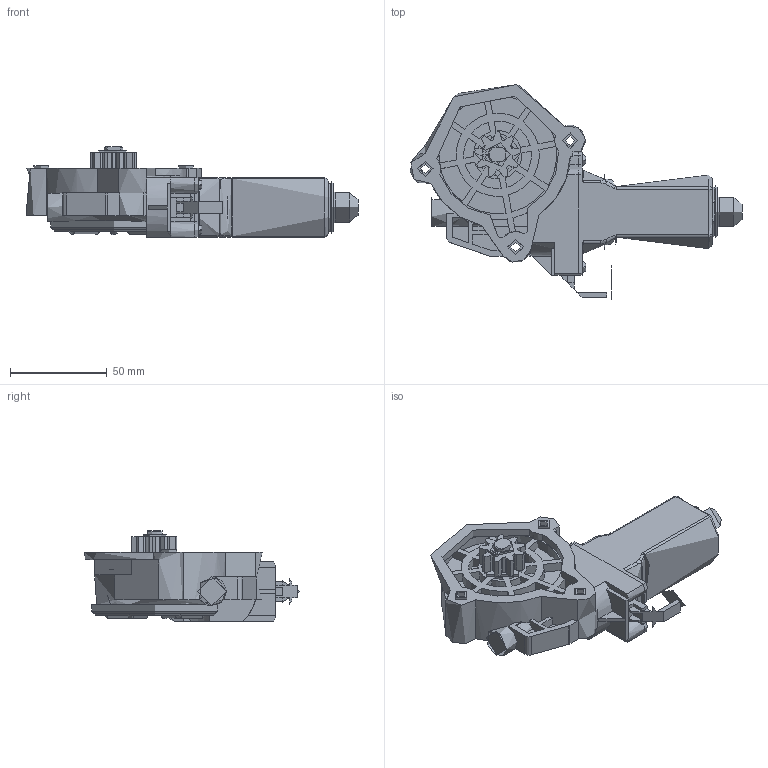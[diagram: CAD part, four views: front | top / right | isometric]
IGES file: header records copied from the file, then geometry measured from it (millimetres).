
Global section: file name: No Iges File Name specified; native system: AutoDesk Inventor R5.0; preprocessor: AutoDesk Inventor Iges Exporter R5.0; author: No Author specified; organization: No Organization specified; date: 20020712.101022; units: millimetre
Bounding box: 171.49 x 110.93 x 46.7 mm (x, y, z)
Topology: 0 solids, 0 shells, 670 faces, 3510 edges, 3444 vertices
Faces by surface type: plane 412, revolution 219, bspline 39
